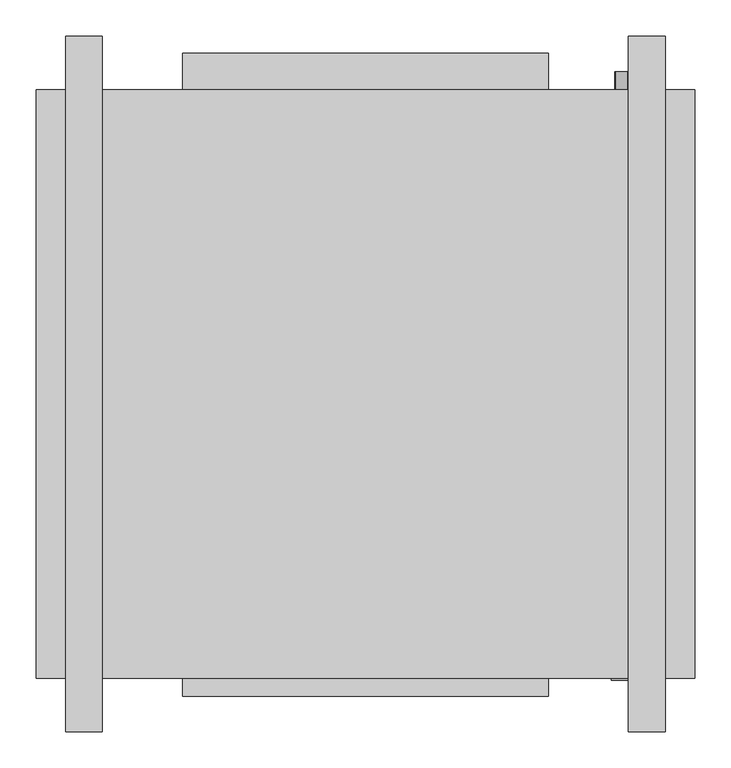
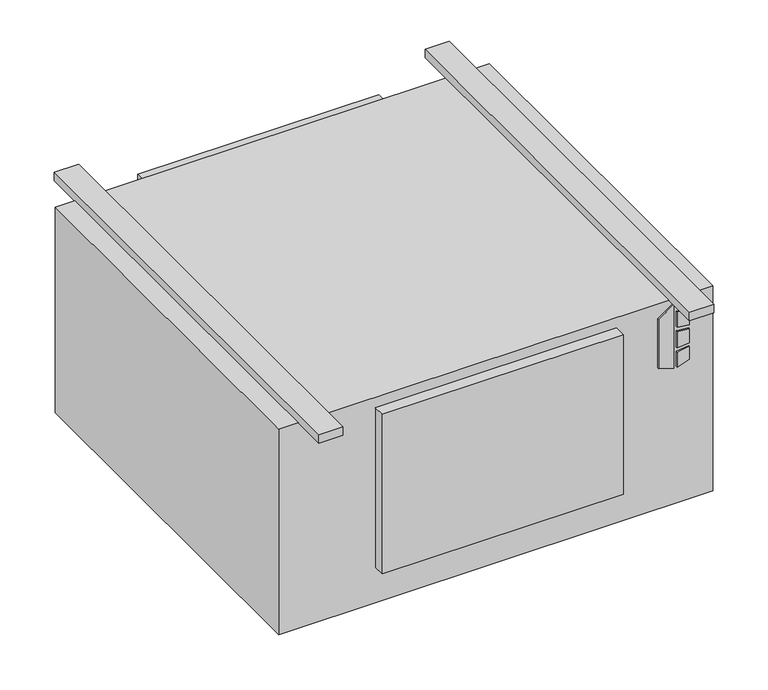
"""IFC4 building model written with IfcOpenShell, lengths in millimetres: proxy geometry, Concealed_High_Capacity_Horizontal_Cabinet_Fan_Coil_Unit_-_HXY_-_IEC_-_4-Pipe_RH_2022 : Size 08 - 277v/60Hz/1Ph - 6/2 Coil."""

from ifc_helpers import new_model, si_unit, point, frame, frame_2d, origin, origin_with_axes, place, context, project, spatial, polyline, circle_curve, trimmed, segment, composite_curve, outline, extrude, source, transform, mapped, element, save


def mechanical_equipment_6d73ec35(model_context):
    return source(origin(), model_context, "Body", "SweptSolid", [
        extrude(outline(polyline([(-142.4519297, 493.7868862), (-152.4, 525.9602728), (-10.2290756, 525.9602728), (-33.2510817, 493.7868862), (-142.4519297, 493.7868862)])), frame((0.0, -649.2875, 0.0), z_axis=(0.0, 1.0, 0.0), x_axis=(0.0, 0.0, 1.0)), (0.0, 0.0, 1.0), 3.175),
        extrude(outline(polyline([(-63.4526443, 532.7186058), (-66.6550368, 558.8), (-37.4261958, 558.8), (-29.3617807, 532.7186058), (-63.4526443, 532.7186058)])), frame((0.0, -649.2875, 0.0), z_axis=(0.0, 1.0, 0.0), x_axis=(0.0, 0.0, 1.0)), (0.0, 0.0, 1.0), 3.175),
        extrude(outline(polyline([(-115.3161712, 558.8), (-118.9816721, 532.7186058), (-152.4, 532.7186058), (-143.7657628, 558.8), (-115.3161712, 558.8)])), frame((0.0, -649.2875, 0.0), z_axis=(0.0, 1.0, 0.0), x_axis=(0.0, 0.0, 1.0)), (0.0, 0.0, 1.0), 3.175),
        extrude(outline(polyline([(-76.0010097, 558.8), (-73.7191834, 532.7186058), (-109.6567319, 532.7186058), (-106.9154669, 558.8), (-76.0010097, 558.8)])), frame((0.0, -649.2875, 0.0), z_axis=(0.0, 1.0, 0.0), x_axis=(0.0, 0.0, 1.0)), (0.0, 0.0, 1.0), 3.175),
        extrude(outline(composite_curve([segment(trimmed(circle_curve(frame_2d((-406.4, 508.0)), 9.525), [point((-406.4, 498.475))], [point((-406.4, 517.525))], False, "CARTESIAN"), True, "CONTINUOUS"), segment(trimmed(circle_curve(frame_2d((-406.4, 508.0)), 9.525), [point((-406.4, 517.525))], [point((-406.4, 498.475))], False, "CARTESIAN"), True, "CONTINUOUS")], self_intersect=False)), frame((0.0, 169.8625, 0.0), z_axis=(0.0, 1.0, 0.0), x_axis=(0.0, 0.0, 1.0)), (0.0, 0.0, 1.0), 25.4),
        extrude(outline(composite_curve([segment(trimmed(circle_curve(frame_2d((-330.2, 508.0)), 7.9375), [point((-330.2, 500.0625))], [point((-330.2, 515.9375))], False, "CARTESIAN"), True, "CONTINUOUS"), segment(trimmed(circle_curve(frame_2d((-330.2, 508.0)), 7.9375), [point((-330.2, 515.9375))], [point((-330.2, 500.0625))], False, "CARTESIAN"), True, "CONTINUOUS")], self_intersect=False)), frame((0.0, 169.8625, 0.0), z_axis=(0.0, 1.0, 0.0), x_axis=(0.0, 0.0, 1.0)), (0.0, 0.0, 1.0), 25.4),
        extrude(outline(composite_curve([segment(trimmed(circle_curve(frame_2d((-254.0, 508.0)), 7.9375), [point((-254.0, 500.0625))], [point((-254.0, 515.9375))], False, "CARTESIAN"), True, "CONTINUOUS"), segment(trimmed(circle_curve(frame_2d((-254.0, 508.0)), 7.9375), [point((-254.0, 515.9375))], [point((-254.0, 500.0625))], False, "CARTESIAN"), True, "CONTINUOUS")], self_intersect=False)), frame((0.0, 169.8625, 0.0), z_axis=(0.0, 1.0, 0.0), x_axis=(0.0, 0.0, 1.0)), (0.0, 0.0, 1.0), 25.4),
        extrude(outline(composite_curve([segment(trimmed(circle_curve(frame_2d((-177.8, 508.0)), 7.9375), [point((-177.8, 500.0625))], [point((-177.8, 515.9375))], False, "CARTESIAN"), True, "CONTINUOUS"), segment(trimmed(circle_curve(frame_2d((-177.8, 508.0)), 7.9375), [point((-177.8, 515.9375))], [point((-177.8, 500.0625))], False, "CARTESIAN"), True, "CONTINUOUS")], self_intersect=False)), frame((0.0, 169.8625, 0.0), z_axis=(0.0, 1.0, 0.0), x_axis=(0.0, 0.0, 1.0)), (0.0, 0.0, 1.0), 25.4),
        extrude(outline(composite_curve([segment(trimmed(circle_curve(frame_2d((-101.6, 508.0)), 7.9375), [point((-101.6, 500.0625))], [point((-101.6, 515.9375))], False, "CARTESIAN"), True, "CONTINUOUS"), segment(trimmed(circle_curve(frame_2d((-101.6, 508.0)), 7.9375), [point((-101.6, 515.9375))], [point((-101.6, 500.0625))], False, "CARTESIAN"), True, "CONTINUOUS")], self_intersect=False)), frame((0.0, 169.8625, 0.0), z_axis=(0.0, 1.0, 0.0), x_axis=(0.0, 0.0, 1.0)), (0.0, 0.0, 1.0), 25.4),
        extrude(outline(polyline([(609.6, 169.8625), (609.6, -646.1125), (-304.8, -646.1125), (-304.8, 169.8625), (609.6, 169.8625)])), frame((0.0, 0.0, -457.2), z_axis=(0.0, 0.0, 1.0), x_axis=(1.0, 0.0, 0.0)), (0.0, 0.0, 1.0), 457.2),
        extrude(outline(polyline([(-101.6, 220.6625), (406.4, 220.6625), (406.4, 169.8625), (-101.6, 169.8625), (-101.6, 220.6625)])), frame((0.0, 0.0, -377.825), z_axis=(0.0, 0.0, 1.0), x_axis=(1.0, 0.0, 0.0)), (0.0, 0.0, 1.0), 349.25),
        extrude(outline(polyline([(-212.725, 244.475), (-212.725, -720.725), (-263.525, -720.725), (-263.525, 244.475), (-212.725, 244.475)])), origin_with_axes(), (0.0, 0.0, 1.0), 19.05),
        extrude(outline(polyline([(568.325, 244.475), (568.325, -720.725), (517.525, -720.725), (517.525, 244.475), (568.325, 244.475)])), origin_with_axes(), (0.0, 0.0, 1.0), 19.05),
        extrude(outline(polyline([(406.4, -671.5125), (-101.6, -671.5125), (-101.6, -646.1125), (406.4, -646.1125), (406.4, -671.5125)])), frame((0.0, 0.0, -377.825), z_axis=(0.0, 0.0, 1.0), x_axis=(1.0, 0.0, 0.0)), (0.0, 0.0, 1.0), 355.6),
    ])


if __name__ == "__main__":
    model = new_model("IFC4")
    model_context = context("Model", 3, world=origin())
    ifc_project = project(units=[si_unit("LENGTHUNIT", "METRE", prefix="MILLI")], contexts=[model_context])
    site = spatial("IfcSite", under=ifc_project)
    building = spatial("IfcBuilding", under=site)
    placement = place(None, origin())
    mechanical_equipment_shape = mechanical_equipment_6d73ec35(model_context)
    element("IfcBuildingElementProxy", 1, Name="Concealed_High_Capacity_Horizontal_Cabinet_Fan_Coil_Unit_-_HXY_-_IEC_-_4-Pipe_RH_2022 : Size 08 - 277v/60Hz/1Ph - 6/2 Coil", ObjectType="Concealed_High_Capacity_Horizontal_Cabinet_Fan_Coil_Unit_-_HXY_-_IEC_-_4-Pipe_RH_2022 : Size 08 - 277v/60Hz/1Ph - 6/2 Coil", at=placement, inside=building, context=model_context, shape_type="MappedRepresentation", body=[
        mapped(mechanical_equipment_shape, transform((0.0, 0.0, 0.0), x_axis=(1.0, 0.0, 0.0), y_axis=(0.0, 1.0, 0.0), z_axis=(0.0, 0.0, 1.0))),
    ])
    save(model, "model.ifc")
